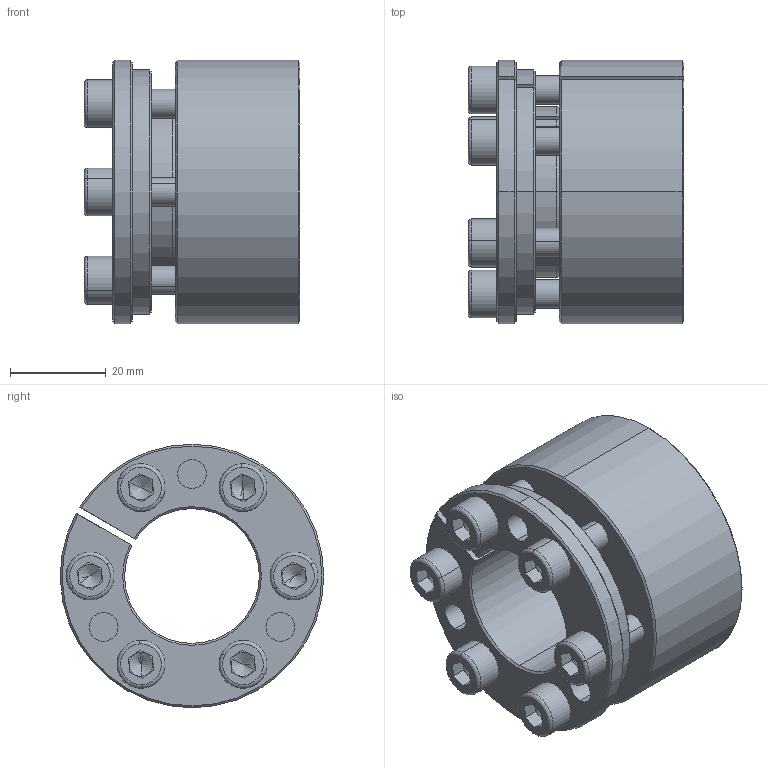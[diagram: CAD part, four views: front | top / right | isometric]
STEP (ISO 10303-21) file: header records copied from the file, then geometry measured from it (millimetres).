
FILE_DESCRIPTION (( 'STEP AP214' ), '1' );
FILE_NAME ('PL-H2 28-55.STEP', '2022-07-25T01:52:49', ( '' ), ( '' ), 'SwSTEP 2.0', 'SolidWorks 2022', '' );
FILE_SCHEMA (( 'AUTOMOTIVE_DESIGN' ));
Length unit declared in the file: millimetre
Products named in the file (1): PL-H2 28-55
Bounding box: 45 x 54.91 x 54.92 mm (x, y, z)
Volume: 58449.2 mm3; surface area: 22190.8 mm2
Topology: 1 solids, 1 shells, 239 faces, 587 edges, 362 vertices
Faces by surface type: plane 98, cylinder 69, cone 60, torus 12
Entity records: 7084 total; most frequent: DIRECTION 1304, CARTESIAN_POINT 1249, ORIENTED_EDGE 1150, EDGE_CURVE 575, AXIS2_PLACEMENT_3D 513, VERTEX_POINT 362, EDGE_LOOP 281, LINE 278
